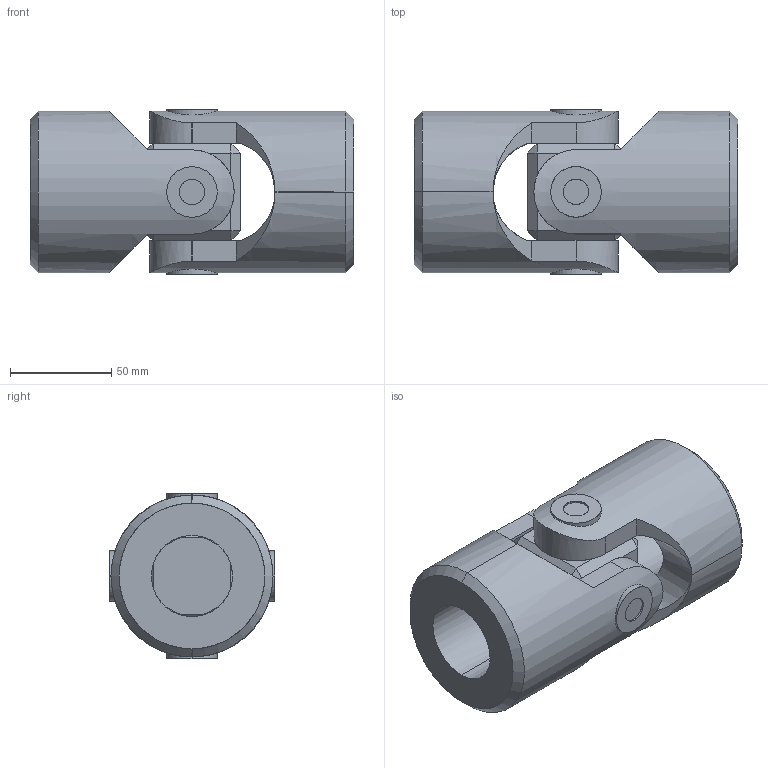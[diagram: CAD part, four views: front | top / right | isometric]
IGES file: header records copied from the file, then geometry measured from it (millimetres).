
Start section: SolidWorks IGES file using analytic representation for surfaces
Global section: file name: C:\Users\IanO\Desktop\R3690_v2\R3690_v2_20231020_IGES\R3690.040-RB.igs; native system: SolidWorks 2019; preprocessor: SolidWorks 2019; author: IanO; date: 231020.152401; units: millimetre
Bounding box: 160 x 81.6 x 81.6 mm (x, y, z)
Surface area: 98984.4 mm2 (no closed solid volume)
Topology: 0 solids, 0 shells, 104 faces, 2568 edges, 2568 vertices
Faces by surface type: bspline 56, revolution 48
